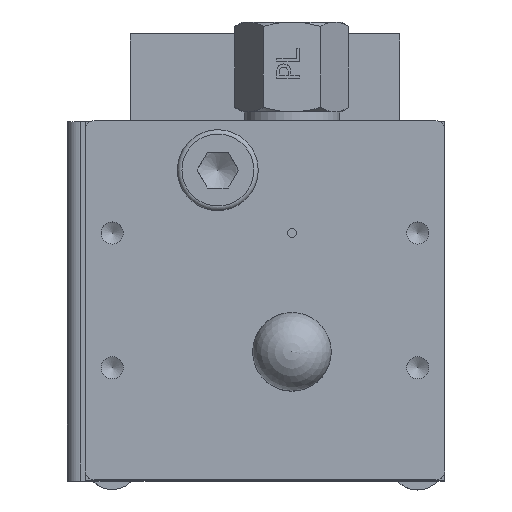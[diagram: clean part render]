
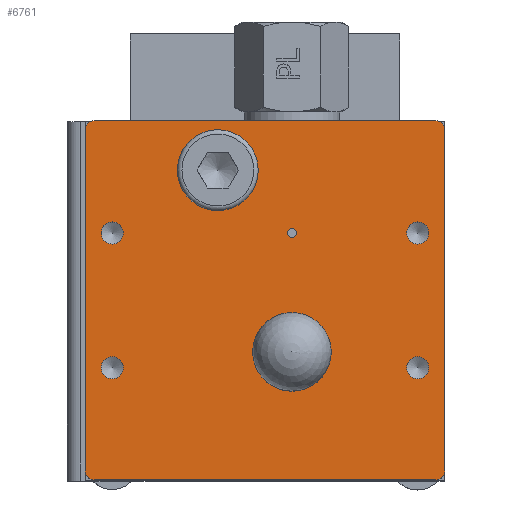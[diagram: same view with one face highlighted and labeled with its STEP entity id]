
A CAD part, top view. The second image highlights one B-rep face of the part: STEP entity #6761.
In plain terms, the highlighted planar face has unit normal (0, 0, 1).
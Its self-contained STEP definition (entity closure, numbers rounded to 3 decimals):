
#342=LINE('',#9881,#747);
#343=LINE('',#9885,#748);
#344=LINE('',#9889,#749);
#345=LINE('',#9893,#750);
#747=VECTOR('',#7991,76.);
#748=VECTOR('',#7994,76.);
#749=VECTOR('',#7997,76.);
#750=VECTOR('',#8000,76.);
#1239=FACE_BOUND('',#1882,.T.);
#1240=FACE_BOUND('',#1883,.T.);
#1241=FACE_BOUND('',#1884,.T.);
#1242=FACE_BOUND('',#1885,.T.);
#1243=FACE_BOUND('',#1886,.T.);
#1244=FACE_BOUND('',#1887,.T.);
#1245=FACE_BOUND('',#1888,.T.);
#1432=FACE_OUTER_BOUND('',#1881,.T.);
#1881=EDGE_LOOP('',(#4342,#4343,#4344,#4345,#4346,#4347,#4348,#4349));
#1882=EDGE_LOOP('',(#4350));
#1883=EDGE_LOOP('',(#4351));
#1884=EDGE_LOOP('',(#4352));
#1885=EDGE_LOOP('',(#4353));
#1886=EDGE_LOOP('',(#4354));
#1887=EDGE_LOOP('',(#4355));
#1888=EDGE_LOOP('',(#4356));
#2497=CIRCLE('',#7222,8.5);
#2498=CIRCLE('',#7224,2.);
#2499=CIRCLE('',#7225,2.);
#2500=CIRCLE('',#7226,2.);
#2501=CIRCLE('',#7227,2.);
#2502=CIRCLE('',#7228,1.);
#2503=CIRCLE('',#7229,2.459);
#2504=CIRCLE('',#7230,2.459);
#2505=CIRCLE('',#7231,2.459);
#2506=CIRCLE('',#7232,2.459);
#2507=CIRCLE('',#7233,8.74);
#2806=VERTEX_POINT('',#9876);
#2807=VERTEX_POINT('',#9879);
#2808=VERTEX_POINT('',#9880);
#2809=VERTEX_POINT('',#9882);
#2810=VERTEX_POINT('',#9884);
#2811=VERTEX_POINT('',#9886);
#2812=VERTEX_POINT('',#9888);
#2813=VERTEX_POINT('',#9890);
#2814=VERTEX_POINT('',#9892);
#2815=VERTEX_POINT('',#9895);
#2816=VERTEX_POINT('',#9897);
#2817=VERTEX_POINT('',#9899);
#2818=VERTEX_POINT('',#9901);
#2819=VERTEX_POINT('',#9903);
#2820=VERTEX_POINT('',#9905);
#3430=EDGE_CURVE('',#2806,#2806,#2497,.T.);
#3431=EDGE_CURVE('',#2807,#2808,#342,.T.);
#3432=EDGE_CURVE('',#2809,#2807,#2498,.T.);
#3433=EDGE_CURVE('',#2810,#2809,#343,.T.);
#3434=EDGE_CURVE('',#2811,#2810,#2499,.T.);
#3435=EDGE_CURVE('',#2812,#2811,#344,.T.);
#3436=EDGE_CURVE('',#2813,#2812,#2500,.T.);
#3437=EDGE_CURVE('',#2814,#2813,#345,.T.);
#3438=EDGE_CURVE('',#2808,#2814,#2501,.T.);
#3439=EDGE_CURVE('',#2815,#2815,#2502,.T.);
#3440=EDGE_CURVE('',#2816,#2816,#2503,.T.);
#3441=EDGE_CURVE('',#2817,#2817,#2504,.T.);
#3442=EDGE_CURVE('',#2818,#2818,#2505,.T.);
#3443=EDGE_CURVE('',#2819,#2819,#2506,.T.);
#3444=EDGE_CURVE('',#2820,#2820,#2507,.T.);
#4342=ORIENTED_EDGE('',*,*,#3431,.F.);
#4343=ORIENTED_EDGE('',*,*,#3432,.F.);
#4344=ORIENTED_EDGE('',*,*,#3433,.F.);
#4345=ORIENTED_EDGE('',*,*,#3434,.F.);
#4346=ORIENTED_EDGE('',*,*,#3435,.F.);
#4347=ORIENTED_EDGE('',*,*,#3436,.F.);
#4348=ORIENTED_EDGE('',*,*,#3437,.F.);
#4349=ORIENTED_EDGE('',*,*,#3438,.F.);
#4350=ORIENTED_EDGE('',*,*,#3439,.T.);
#4351=ORIENTED_EDGE('',*,*,#3440,.T.);
#4352=ORIENTED_EDGE('',*,*,#3441,.T.);
#4353=ORIENTED_EDGE('',*,*,#3442,.T.);
#4354=ORIENTED_EDGE('',*,*,#3443,.T.);
#4355=ORIENTED_EDGE('',*,*,#3444,.T.);
#4356=ORIENTED_EDGE('',*,*,#3430,.T.);
#6083=PLANE('',#7223);
#6761=ADVANCED_FACE('',(#1432,#1239,#1240,#1241,#1242,#1243,#1244,#1245),
#6083,.F.);
#7222=AXIS2_PLACEMENT_3D('',#9877,#7987,#7988);
#7223=AXIS2_PLACEMENT_3D('',#9878,#7989,#7990);
#7224=AXIS2_PLACEMENT_3D('',#9883,#7992,#7993);
#7225=AXIS2_PLACEMENT_3D('',#9887,#7995,#7996);
#7226=AXIS2_PLACEMENT_3D('',#9891,#7998,#7999);
#7227=AXIS2_PLACEMENT_3D('',#9894,#8001,#8002);
#7228=AXIS2_PLACEMENT_3D('',#9896,#8003,#8004);
#7229=AXIS2_PLACEMENT_3D('',#9898,#8005,#8006);
#7230=AXIS2_PLACEMENT_3D('',#9900,#8007,#8008);
#7231=AXIS2_PLACEMENT_3D('',#9902,#8009,#8010);
#7232=AXIS2_PLACEMENT_3D('',#9904,#8011,#8012);
#7233=AXIS2_PLACEMENT_3D('',#9906,#8013,#8014);
#7987=DIRECTION('center_axis',(0.,0.,
-1.));
#7988=DIRECTION('ref_axis',(-1.,0.,0.));
#7989=DIRECTION('center_axis',(0.,0.,
-1.));
#7990=DIRECTION('ref_axis',(-1.,0.,0.));
#7991=DIRECTION('',(-1.,0.,0.));
#7992=DIRECTION('center_axis',(0.,0.,
-1.));
#7993=DIRECTION('ref_axis',(0.707,-0.707,0.));
#7994=DIRECTION('',(0.,-1.,0.));
#7995=DIRECTION('center_axis',(0.,0.,
-1.));
#7996=DIRECTION('ref_axis',(0.707,0.707,0.));
#7997=DIRECTION('',(1.,0.,0.));
#7998=DIRECTION('center_axis',(0.,0.,
-1.));
#7999=DIRECTION('ref_axis',(-0.707,0.707,0.));
#8000=DIRECTION('',(0.,1.,0.));
#8001=DIRECTION('center_axis',(0.,0.,
-1.));
#8002=DIRECTION('ref_axis',(-0.707,-0.707,0.));
#8003=DIRECTION('center_axis',(0.,0.,
-1.));
#8004=DIRECTION('ref_axis',(1.,0.,0.));
#8005=DIRECTION('center_axis',(0.,0.,
-1.));
#8006=DIRECTION('ref_axis',(1.,0.,0.));
#8007=DIRECTION('center_axis',(0.,0.,
-1.));
#8008=DIRECTION('ref_axis',(1.,0.,0.));
#8009=DIRECTION('center_axis',(0.,0.,
-1.));
#8010=DIRECTION('ref_axis',(1.,0.,0.));
#8011=DIRECTION('center_axis',(0.,0.,
-1.));
#8012=DIRECTION('ref_axis',(1.,0.,0.));
#8013=DIRECTION('center_axis',(0.,0.,
-1.));
#8014=DIRECTION('ref_axis',(1.,0.,0.));
#9876=CARTESIAN_POINT('',(-2.,29.,135.));
#9877=CARTESIAN_POINT('Origin',(-10.5,29.,135.));
#9878=CARTESIAN_POINT('Origin',(0.,0.,
135.));
#9879=CARTESIAN_POINT('',(38.,-40.,135.));
#9880=CARTESIAN_POINT('',(-38.,-40.,135.));
#9881=CARTESIAN_POINT('',(-20.,-40.,135.));
#9882=CARTESIAN_POINT('',(40.,-38.,135.));
#9883=CARTESIAN_POINT('Origin',(38.,-38.,135.));
#9884=CARTESIAN_POINT('',(40.,38.,135.));
#9885=CARTESIAN_POINT('',(40.,-20.,135.));
#9886=CARTESIAN_POINT('',(38.,40.,135.));
#9887=CARTESIAN_POINT('Origin',(38.,38.,135.));
#9888=CARTESIAN_POINT('',(-38.,40.,135.));
#9889=CARTESIAN_POINT('',(20.,40.,135.));
#9890=CARTESIAN_POINT('',(-40.,38.,135.));
#9891=CARTESIAN_POINT('Origin',(-38.,38.,135.));
#9892=CARTESIAN_POINT('',(-40.,-38.,135.));
#9893=CARTESIAN_POINT('',(-40.,20.,135.));
#9894=CARTESIAN_POINT('Origin',(-38.,-38.,135.));
#9895=CARTESIAN_POINT('',(7.,15.,135.));
#9896=CARTESIAN_POINT('Origin',(6.,15.,135.));
#9897=CARTESIAN_POINT('',(-31.542,15.,135.));
#9898=CARTESIAN_POINT('Origin',(-34.,15.,135.));
#9899=CARTESIAN_POINT('',(36.459,15.,135.));
#9900=CARTESIAN_POINT('Origin',(34.,15.,135.));
#9901=CARTESIAN_POINT('',(-31.542,-15.,135.));
#9902=CARTESIAN_POINT('Origin',(-34.,-15.,135.));
#9903=CARTESIAN_POINT('',(36.458,-15.,135.));
#9904=CARTESIAN_POINT('Origin',(34.,-15.,135.));
#9905=CARTESIAN_POINT('',(-2.74,-11.5,135.));
#9906=CARTESIAN_POINT('Origin',(6.,-11.5,135.));
